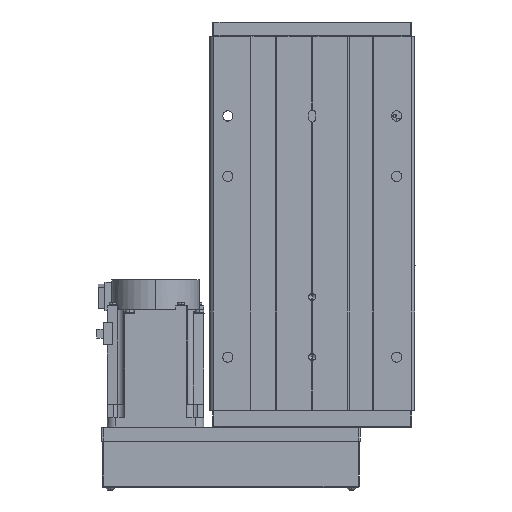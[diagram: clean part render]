
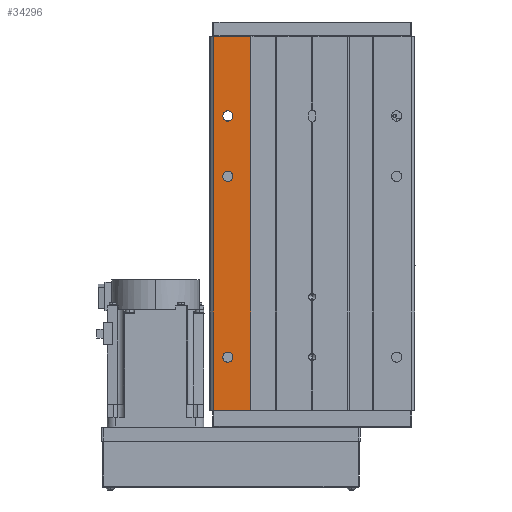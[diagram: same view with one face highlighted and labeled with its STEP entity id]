
A CAD part, front view. The second image highlights one B-rep face of the part: STEP entity #34296.
In plain terms, the highlighted planar face has unit normal (0, -1, 0).
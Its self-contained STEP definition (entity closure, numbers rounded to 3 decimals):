
#249 = AXIS2_PLACEMENT_3D ( 'NONE', #31644, #1214, #14753 ) ;
#642 = CARTESIAN_POINT ( 'NONE',  ( 50., -1., 155. ) ) ;
#756 = EDGE_CURVE ( 'NONE', #22029, #793, #11864, .T. ) ;
#793 = VERTEX_POINT ( 'NONE', #42766 ) ;
#1214 = DIRECTION ( 'NONE',  ( 0., -1., 0. ) ) ;
#1419 = DIRECTION ( 'NONE',  ( 0., 0., 1. ) ) ;
#3031 = AXIS2_PLACEMENT_3D ( 'NONE', #10217, #23775, #37319 ) ;
#3274 = EDGE_LOOP ( 'NONE', ( #41863, #9558 ) ) ;
#3496 = CARTESIAN_POINT ( 'NONE',  ( 70., -1., -84.75 ) ) ;
#3534 = ORIENTED_EDGE ( 'NONE', *, *, #7219, .F. ) ;
#3983 = FACE_BOUND ( 'NONE', #43016, .T. ) ;
#4593 = DIRECTION ( 'NONE',  ( 0., -1., 0. ) ) ;
#4620 = AXIS2_PLACEMENT_3D ( 'NONE', #642, #14177, #27719 ) ;
#5238 = DIRECTION ( 'NONE',  ( 0., 0., -1. ) ) ;
#6070 = DIRECTION ( 'NONE',  ( 1., 0., 0. ) ) ;
#6690 = CARTESIAN_POINT ( 'NONE',  ( 70., -1., 115.25 ) ) ;
#7219 = EDGE_CURVE ( 'NONE', #20113, #33842, #11559, .T. ) ;
#7638 = EDGE_CURVE ( 'NONE', #793, #22029, #19390, .T. ) ;
#8379 = CARTESIAN_POINT ( 'NONE',  ( 70., -1., -34.75 ) ) ;
#8667 = DIRECTION ( 'NONE',  ( 0., 0., -1. ) ) ;
#9141 = CIRCLE ( 'NONE', #33976, 4.25 ) ;
#9558 = ORIENTED_EDGE ( 'NONE', *, *, #756, .F. ) ;
#9961 = VECTOR ( 'NONE', #1419, 1000. ) ;
#10217 = CARTESIAN_POINT ( 'NONE',  ( 70., -1., -89. ) ) ;
#10380 = CARTESIAN_POINT ( 'NONE',  ( 51., -1., 155. ) ) ;
#11260 = CARTESIAN_POINT ( 'NONE',  ( 70., -1., 111. ) ) ;
#11559 = CIRCLE ( 'NONE', #36396, 4.25 ) ;
#11647 = CIRCLE ( 'NONE', #36478, 4.25 ) ;
#11864 = CIRCLE ( 'NONE', #36703, 4.25 ) ;
#12638 = CARTESIAN_POINT ( 'NONE',  ( 51., -1., 155. ) ) ;
#13449 = VERTEX_POINT ( 'NONE', #10380 ) ;
#13996 = EDGE_LOOP ( 'NONE', ( #15691, #35703 ) ) ;
#14177 = DIRECTION ( 'NONE',  ( 0., 1., 0. ) ) ;
#14287 = EDGE_CURVE ( 'NONE', #28971, #27061, #22181, .T. ) ;
#14753 = DIRECTION ( 'NONE',  ( 0., 0., -1. ) ) ;
#14960 = EDGE_CURVE ( 'NONE', #31035, #21146, #15921, .T. ) ;
#15691 = ORIENTED_EDGE ( 'NONE', *, *, #14287, .F. ) ;
#15723 = ORIENTED_EDGE ( 'NONE', *, *, #27632, .T. ) ;
#15921 = LINE ( 'NONE', #29461, #33453 ) ;
#17525 = FACE_OUTER_BOUND ( 'NONE', #39197, .T. ) ;
#18141 = DIRECTION ( 'NONE',  ( 0., 0., -1. ) ) ;
#18300 = LINE ( 'NONE', #31844, #9961 ) ;
#19390 = CIRCLE ( 'NONE', #249, 4.25 ) ;
#19589 = VECTOR ( 'NONE', #26177, 1000. ) ;
#19946 = ORIENTED_EDGE ( 'NONE', *, *, #38101, .T. ) ;
#20113 = VERTEX_POINT ( 'NONE', #40392 ) ;
#20289 = ORIENTED_EDGE ( 'NONE', *, *, #27834, .F. ) ;
#20848 = FACE_BOUND ( 'NONE', #3274, .T. ) ;
#21146 = VERTEX_POINT ( 'NONE', #31203 ) ;
#22029 = VERTEX_POINT ( 'NONE', #8379 ) ;
#22119 = CARTESIAN_POINT ( 'NONE',  ( 70., -1., -39. ) ) ;
#22181 = CIRCLE ( 'NONE', #3031, 4.25 ) ;
#22674 = CARTESIAN_POINT ( 'NONE',  ( 70., -1., -93.25 ) ) ;
#22742 = VECTOR ( 'NONE', #6070, 1000. ) ;
#22946 = LINE ( 'NONE', #36499, #22742 ) ;
#23775 = DIRECTION ( 'NONE',  ( 0., -1., 0. ) ) ;
#23854 = VERTEX_POINT ( 'NONE', #23856 ) ;
#23856 = CARTESIAN_POINT ( 'NONE',  ( 82., -1., 155. ) ) ;
#24806 = DIRECTION ( 'NONE',  ( 0., -1., 0. ) ) ;
#25539 = CARTESIAN_POINT ( 'NONE',  ( 70., -1., -89. ) ) ;
#26177 = DIRECTION ( 'NONE',  ( 0., 0., -1. ) ) ;
#27061 = VERTEX_POINT ( 'NONE', #3496 ) ;
#27632 = EDGE_CURVE ( 'NONE', #21146, #23854, #18300, .T. ) ;
#27719 = DIRECTION ( 'NONE',  ( -1., 0., 0. ) ) ;
#27834 = EDGE_CURVE ( 'NONE', #13449, #23854, #22946, .T. ) ;
#28971 = VERTEX_POINT ( 'NONE', #22674 ) ;
#29461 = CARTESIAN_POINT ( 'NONE',  ( 50., -1., -155. ) ) ;
#31035 = VERTEX_POINT ( 'NONE', #31162 ) ;
#31059 = PLANE ( 'NONE',  #4620 ) ;
#31162 = CARTESIAN_POINT ( 'NONE',  ( 51., -1., -155. ) ) ;
#31203 = CARTESIAN_POINT ( 'NONE',  ( 82., -1., -155. ) ) ;
#31644 = CARTESIAN_POINT ( 'NONE',  ( 70., -1., -39. ) ) ;
#31844 = CARTESIAN_POINT ( 'NONE',  ( 82., -1., -155. ) ) ;
#33453 = VECTOR ( 'NONE', #43003, 1000. ) ;
#33842 = VERTEX_POINT ( 'NONE', #6690 ) ;
#33976 = AXIS2_PLACEMENT_3D ( 'NONE', #35014, #4593, #18141 ) ;
#34296 = ADVANCED_FACE ( 'NONE', ( #20848, #34406, #3983, #17525 ), #31059, .F. ) ;
#34406 = FACE_BOUND ( 'NONE', #13996, .T. ) ;
#35014 = CARTESIAN_POINT ( 'NONE',  ( 70., -1., 111. ) ) ;
#35135 = EDGE_CURVE ( 'NONE', #27061, #28971, #11647, .T. ) ;
#35672 = DIRECTION ( 'NONE',  ( 0., -1., 0. ) ) ;
#35703 = ORIENTED_EDGE ( 'NONE', *, *, #35135, .F. ) ;
#36396 = AXIS2_PLACEMENT_3D ( 'NONE', #11260, #24806, #38343 ) ;
#36478 = AXIS2_PLACEMENT_3D ( 'NONE', #25539, #39085, #8667 ) ;
#36499 = CARTESIAN_POINT ( 'NONE',  ( 50., -1., 155. ) ) ;
#36703 = AXIS2_PLACEMENT_3D ( 'NONE', #22119, #35672, #5238 ) ;
#37319 = DIRECTION ( 'NONE',  ( 0., 0., -1. ) ) ;
#38101 = EDGE_CURVE ( 'NONE', #13449, #31035, #43067, .T. ) ;
#38343 = DIRECTION ( 'NONE',  ( 0., 0., -1. ) ) ;
#38862 = ORIENTED_EDGE ( 'NONE', *, *, #14960, .T. ) ;
#39085 = DIRECTION ( 'NONE',  ( 0., -1., 0. ) ) ;
#39197 = EDGE_LOOP ( 'NONE', ( #38862, #15723, #20289, #19946 ) ) ;
#40392 = CARTESIAN_POINT ( 'NONE',  ( 70., -1., 106.75 ) ) ;
#41368 = EDGE_CURVE ( 'NONE', #33842, #20113, #9141, .T. ) ;
#41863 = ORIENTED_EDGE ( 'NONE', *, *, #7638, .F. ) ;
#42766 = CARTESIAN_POINT ( 'NONE',  ( 70., -1., -43.25 ) ) ;
#43003 = DIRECTION ( 'NONE',  ( 1., 0., 0. ) ) ;
#43016 = EDGE_LOOP ( 'NONE', ( #3534, #43266 ) ) ;
#43067 = LINE ( 'NONE', #12638, #19589 ) ;
#43266 = ORIENTED_EDGE ( 'NONE', *, *, #41368, .F. ) ;
